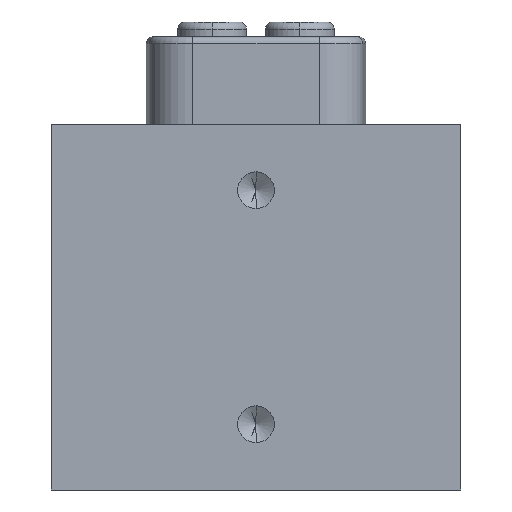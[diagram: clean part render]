
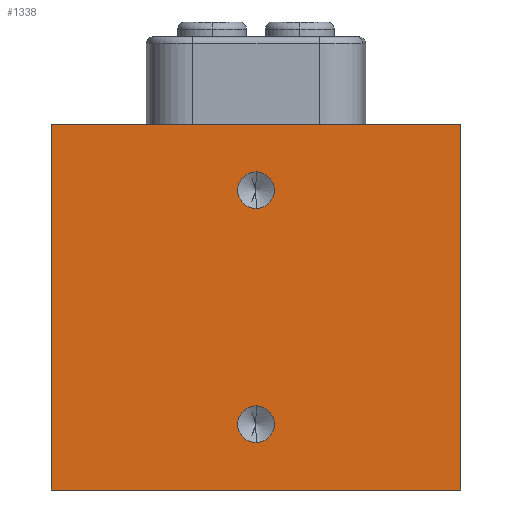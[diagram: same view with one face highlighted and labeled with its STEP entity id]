
A CAD part, front view. The second image highlights one B-rep face of the part: STEP entity #1338.
In plain terms, the highlighted planar face has unit normal (0, -1, 0).
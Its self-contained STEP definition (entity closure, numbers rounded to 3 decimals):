
#7 = VERTEX_POINT ( 'NONE', #4563 ) ;
#174 = DIRECTION ( 'NONE',  ( 0., -1., 0. ) ) ;
#190 = EDGE_CURVE ( 'NONE', #2436, #3117, #4230, .T. ) ;
#211 = VERTEX_POINT ( 'NONE', #2489 ) ;
#220 = ORIENTED_EDGE ( 'NONE', *, *, #1437, .F. ) ;
#261 = VECTOR ( 'NONE', #471, 1000. ) ;
#374 = DIRECTION ( 'NONE',  ( 0., 0., -1. ) ) ;
#377 = DIRECTION ( 'NONE',  ( 0., 0., 1. ) ) ;
#404 = EDGE_CURVE ( 'NONE', #674, #1032, #3009, .T. ) ;
#437 = EDGE_CURVE ( 'NONE', #4366, #1789, #708, .T. ) ;
#471 = DIRECTION ( 'NONE',  ( 1., 0., 0. ) ) ;
#674 = VERTEX_POINT ( 'NONE', #4517 ) ;
#708 = CIRCLE ( 'NONE', #1504, 1.25 ) ;
#711 = CARTESIAN_POINT ( 'NONE',  ( -14., -4.5, 12.5 ) ) ;
#818 = CIRCLE ( 'NONE', #4026, 1.25 ) ;
#855 = CARTESIAN_POINT ( 'NONE',  ( -14., -4.5, 12.5 ) ) ;
#978 = EDGE_LOOP ( 'NONE', ( #1208, #1667, #220, #3671 ) ) ;
#997 = EDGE_LOOP ( 'NONE', ( #4128, #1844 ) ) ;
#1032 = VERTEX_POINT ( 'NONE', #4266 ) ;
#1057 = CIRCLE ( 'NONE', #3792, 1.25 ) ;
#1097 = EDGE_CURVE ( 'NONE', #7, #211, #818, .T. ) ;
#1208 = ORIENTED_EDGE ( 'NONE', *, *, #4460, .T. ) ;
#1220 = CARTESIAN_POINT ( 'NONE',  ( 0., -4.5, 8. ) ) ;
#1263 = PLANE ( 'NONE',  #2422 ) ;
#1338 = ADVANCED_FACE ( 'NONE', ( #3223, #4061, #2837 ), #1263, .F. ) ;
#1395 = VECTOR ( 'NONE', #3955, 1000. ) ;
#1437 = EDGE_CURVE ( 'NONE', #2436, #674, #2888, .T. ) ;
#1499 = DIRECTION ( 'NONE',  ( 0., -1., 0. ) ) ;
#1504 = AXIS2_PLACEMENT_3D ( 'NONE', #1863, #3322, #4001 ) ;
#1627 = DIRECTION ( 'NONE',  ( 0., 1., 0. ) ) ;
#1667 = ORIENTED_EDGE ( 'NONE', *, *, #404, .F. ) ;
#1789 = VERTEX_POINT ( 'NONE', #4173 ) ;
#1844 = ORIENTED_EDGE ( 'NONE', *, *, #1097, .F. ) ;
#1863 = CARTESIAN_POINT ( 'NONE',  ( 0., -4.5, 8. ) ) ;
#1888 = DIRECTION ( 'NONE',  ( 0., -1., 0. ) ) ;
#2015 = ORIENTED_EDGE ( 'NONE', *, *, #437, .F. ) ;
#2053 = AXIS2_PLACEMENT_3D ( 'NONE', #3627, #1499, #374 ) ;
#2143 = CARTESIAN_POINT ( 'NONE',  ( 0., -4.5, 6.75 ) ) ;
#2215 = VECTOR ( 'NONE', #2523, 1000. ) ;
#2250 = DIRECTION ( 'NONE',  ( 0., 0., -1. ) ) ;
#2287 = ORIENTED_EDGE ( 'NONE', *, *, #2729, .F. ) ;
#2303 = DIRECTION ( 'NONE',  ( 0., 0., -1. ) ) ;
#2377 = LINE ( 'NONE', #3610, #2215 ) ;
#2422 = AXIS2_PLACEMENT_3D ( 'NONE', #4085, #1627, #377 ) ;
#2436 = VERTEX_POINT ( 'NONE', #711 ) ;
#2489 = CARTESIAN_POINT ( 'NONE',  ( 0., -4.5, -9.25 ) ) ;
#2523 = DIRECTION ( 'NONE',  ( 1., 0., 0. ) ) ;
#2560 = CARTESIAN_POINT ( 'NONE',  ( 14., -4.5, 12.5 ) ) ;
#2729 = EDGE_CURVE ( 'NONE', #1789, #4366, #1057, .T. ) ;
#2837 = FACE_OUTER_BOUND ( 'NONE', #978, .T. ) ;
#2888 = LINE ( 'NONE', #855, #261 ) ;
#2917 = CARTESIAN_POINT ( 'NONE',  ( 0., -4.5, -8. ) ) ;
#2954 = EDGE_LOOP ( 'NONE', ( #2015, #2287 ) ) ;
#3009 = LINE ( 'NONE', #2560, #3625 ) ;
#3117 = VERTEX_POINT ( 'NONE', #4467 ) ;
#3223 = FACE_BOUND ( 'NONE', #2954, .T. ) ;
#3322 = DIRECTION ( 'NONE',  ( 0., -1., 0. ) ) ;
#3610 = CARTESIAN_POINT ( 'NONE',  ( -14., -4.5, -12.5 ) ) ;
#3625 = VECTOR ( 'NONE', #2250, 1000. ) ;
#3627 = CARTESIAN_POINT ( 'NONE',  ( 0., -4.5, -8. ) ) ;
#3671 = ORIENTED_EDGE ( 'NONE', *, *, #190, .T. ) ;
#3792 = AXIS2_PLACEMENT_3D ( 'NONE', #1220, #174, #2303 ) ;
#3955 = DIRECTION ( 'NONE',  ( 0., 0., -1. ) ) ;
#4001 = DIRECTION ( 'NONE',  ( 0., 0., -1. ) ) ;
#4026 = AXIS2_PLACEMENT_3D ( 'NONE', #2917, #1888, #4330 ) ;
#4061 = FACE_BOUND ( 'NONE', #997, .T. ) ;
#4085 = CARTESIAN_POINT ( 'NONE',  ( -14., -4.5, 12.5 ) ) ;
#4128 = ORIENTED_EDGE ( 'NONE', *, *, #4394, .F. ) ;
#4173 = CARTESIAN_POINT ( 'NONE',  ( 0., -4.5, 9.25 ) ) ;
#4230 = LINE ( 'NONE', #4263, #1395 ) ;
#4263 = CARTESIAN_POINT ( 'NONE',  ( -14., -4.5, 12.5 ) ) ;
#4266 = CARTESIAN_POINT ( 'NONE',  ( 14., -4.5, -12.5 ) ) ;
#4330 = DIRECTION ( 'NONE',  ( 0., 0., -1. ) ) ;
#4366 = VERTEX_POINT ( 'NONE', #2143 ) ;
#4392 = CIRCLE ( 'NONE', #2053, 1.25 ) ;
#4394 = EDGE_CURVE ( 'NONE', #211, #7, #4392, .T. ) ;
#4460 = EDGE_CURVE ( 'NONE', #3117, #1032, #2377, .T. ) ;
#4467 = CARTESIAN_POINT ( 'NONE',  ( -14., -4.5, -12.5 ) ) ;
#4517 = CARTESIAN_POINT ( 'NONE',  ( 14., -4.5, 12.5 ) ) ;
#4563 = CARTESIAN_POINT ( 'NONE',  ( 0., -4.5, -6.75 ) ) ;
